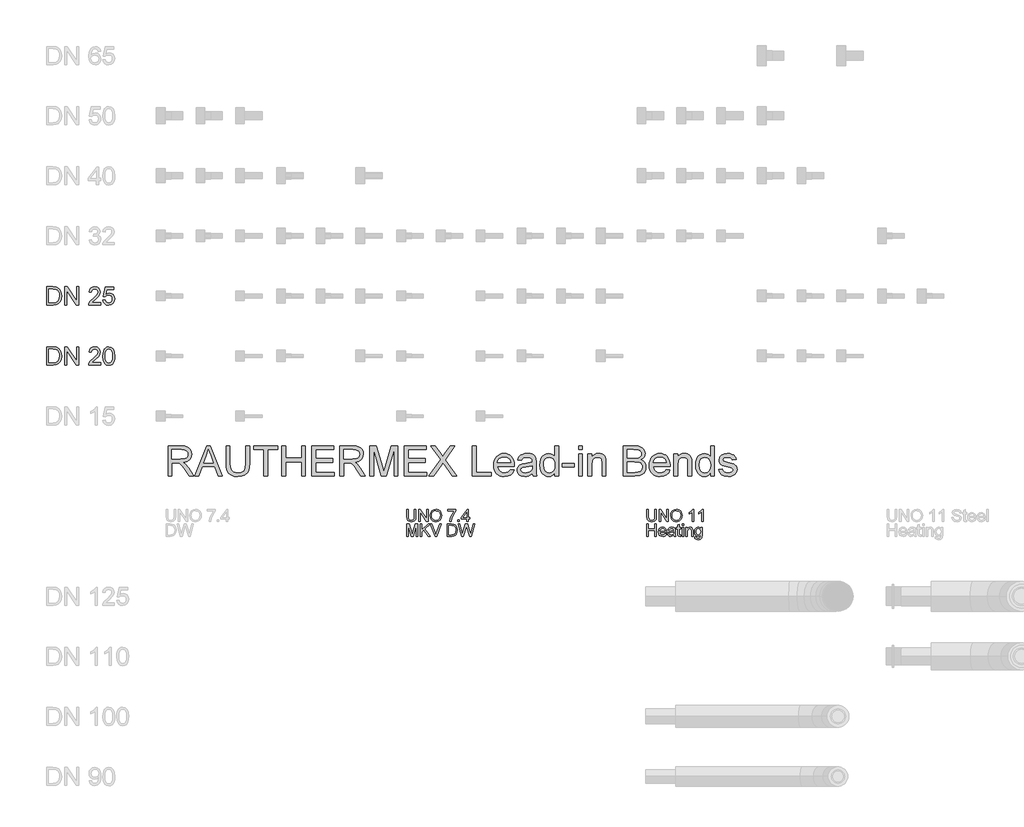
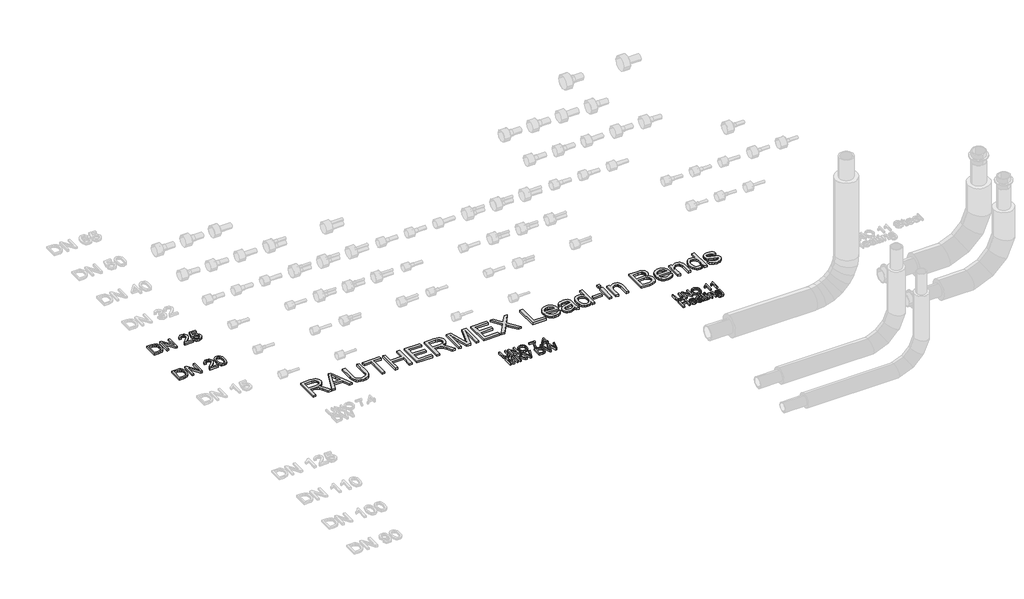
# One storey, part 10 of 44: 5 proxies.
"""IFC4 building model written with IfcOpenShell, lengths in millimetres."""

from ifc_helpers import new_model, si_unit, origin, origin_with_axes, place, context, project, spatial, polyline, outline, extrude, element, save

model = new_model("IFC4")

# Units and contexts
model_context = context("Model", 3, world=origin())
ifc_project = project(units=[si_unit("LENGTHUNIT", "METRE", prefix="MILLI")], contexts=[model_context])

# Site, building, storey
site = spatial("IfcSite", under=ifc_project)
building = spatial("IfcBuilding", under=site)
storey = spatial("IfcBuildingStorey", under=building, Name="REHAU Starting view", Elevation=0.0)

# Proxies
placement = place(None, origin())
element("IfcBuildingElementProxy", 1, Name="100", ObjectType="100", at=placement, inside=storey, context=model_context, shape_type="SweptSolid", body=[
    extrude(outline(polyline([(3076.9118625, 6222.431128), (3089.4689012, 6222.431128), (3089.4689012, 6164.477451), (3086.0598614, 6140.4547567), (3073.7726028, 6125.9847316), (3063.5086951, 6121.8000739), (3050.4734097, 6120.405188), (3027.529836, 6125.2612303), (3019.8901532, 6131.2055902), (3014.8011189, 6139.3265853), (3010.9874089, 6164.477451), (3010.9874089, 6222.431128), (3023.5444477, 6222.431128), (3023.5444477, 6164.9189094), (3026.0215198, 6145.7767829), (3034.5318566, 6136.2976902), (3049.2961874, 6132.9622268), (3062.067824, 6134.6115644), (3070.5597667, 6139.5595772), (3075.3238385, 6149.1980855), (3076.9118625, 6164.9189094), (3076.9118625, 6222.431128)])), origin_with_axes(), (0.0, 0.0, 1.0), 20.0),
    extrude(outline(polyline([(3111.4437191, 6121.9748178), (3111.4437191, 6222.431128), (3124.8836746, 6222.431128), (3177.3681726, 6142.8459897), (3177.3681726, 6222.431128), (3189.9252114, 6222.431128), (3189.9252114, 6121.9748178), (3176.4852558, 6121.9748178), (3124.0007578, 6201.5844816), (3124.0007578, 6121.9748178), (3111.4437191, 6121.9748178)])), origin_with_axes(), (0.0, 0.0, 1.0), 20.0),
    extrude(outline(polyline([(3207.1911397, 6170.8785977), (3210.5388658, 6193.0925389), (3220.5820443, 6209.8986147), (3235.9165921, 6220.4752221), (3255.1384264, 6224.0007578), (3268.3147332, 6222.3452889), (3280.1298766, 6217.3788819), (3289.9400631, 6209.4510249), (3297.1014993, 6198.9112058), (3301.479295, 6186.2683279), (3302.9385603, 6172.0312947), (3301.402653, 6157.6041891), (3296.794931, 6144.7835015), (3289.369846, 6134.2252883), (3279.3818499, 6126.5856055), (3267.667874, 6121.9502924), (3255.06485, 6120.405188), (3241.6862081, 6122.1127736), (3229.8036197, 6127.2355304), (3220.0179586, 6135.3105402), (3212.9300988, 6145.8748848), (3207.1911397, 6170.8785977)]), holes=[polyline([(3219.7481785, 6170.7559704), (3222.2589731, 6155.0412778), (3229.7913569, 6143.0667189), (3241.1129253, 6135.4883498), (3254.9912736, 6132.9622268), (3269.071957, 6135.5128753), (3280.4119195, 6143.1648208), (3287.889121, 6155.5072617), (3290.3815215, 6172.1293965), (3286.1140904, 6192.8534156), (3273.6428907, 6206.575414), (3255.2120028, 6211.4437191), (3241.7046022, 6209.0984714), (3230.2205526, 6202.0627282), (3222.366272, 6189.5455433), (3219.7481785, 6170.7559704)])]), origin_with_axes(), (0.0, 0.0, 1.0), 20.0),
    extrude(outline(polyline([(3354.7363452, 6208.3044594), (3354.7363452, 6220.8614981), (3420.6607988, 6220.8614981), (3420.6607988, 6210.7079551), (3401.9601307, 6183.6931539), (3387.6495211, 6149.2716619), (3382.9896824, 6121.9748178), (3370.4326437, 6121.9748178), (3375.4235761, 6150.3017315), (3389.121049, 6182.3197278), (3408.10376, 6208.3044594), (3354.7363452, 6208.3044594)])), origin_with_axes(), (0.0, 0.0, 1.0), 20.0),
    extrude(outline(polyline([(3437.9267271, 6121.9748178), (3437.9267271, 6134.5318566), (3450.4837658, 6134.5318566), (3450.4837658, 6121.9748178), (3437.9267271, 6121.9748178)])), origin_with_axes(), (0.0, 0.0, 1.0), 20.0),
    extrude(outline(polyline([(3511.6993298, 6121.9748178), (3511.6993298, 6145.5192655), (3466.1800643, 6145.5192655), (3466.1800643, 6158.0763043), (3514.8385895, 6220.8614981), (3524.2563686, 6220.8614981), (3524.2563686, 6158.0763043), (3536.8134074, 6158.0763043), (3536.8134074, 6145.5192655), (3524.2563686, 6145.5192655), (3524.2563686, 6121.9748178), (3511.6993298, 6121.9748178)]), holes=[polyline([(3511.6993298, 6158.0763043), (3511.6993298, 6196.8755921), (3481.6311081, 6158.0763043), (3511.6993298, 6158.0763043)])]), origin_with_axes(), (0.0, 0.0, 1.0), 20.0),
    extrude(outline(polyline([(3010.9874089, 6000.0), (3010.9874089, 6100.4563101), (3032.5943448, 6100.4563101), (3053.1466856, 6029.6512888), (3057.2914894, 6014.8624326), (3061.7796497, 6030.8775621), (3081.988634, 6100.4563101), (3103.5955698, 6100.4563101), (3103.5955698, 6000.0), (3091.0385311, 6000.0), (3091.0385311, 6087.8992714), (3065.8018262, 6000.0), (3048.7811526, 6000.0), (3023.5444477, 6087.8992714), (3023.5444477, 6000.0), (3010.9874089, 6000.0)])), origin_with_axes(), (0.0, 0.0, 1.0), 20.0),
    extrude(outline(polyline([(3247.8543629, 6000.0), (3207.8778527, 6100.4563101), (3221.3178083, 6100.4563101), (3248.0750921, 6028.081659), (3253.4952201, 6011.7722238), (3258.8417718, 6028.081659), (3285.672632, 6100.4563101), (3299.1125875, 6100.4563101), (3260.8283346, 6000.0), (3247.8543629, 6000.0)])), origin_with_axes(), (0.0, 0.0, 1.0), 20.0),
    extrude(outline(polyline([(3125.5703877, 6000.0), (3125.5703877, 6100.4563101), (3138.1274265, 6100.4563101), (3138.1274265, 6051.2827501), (3189.6309058, 6100.4563101), (3207.1911397, 6100.4563101), (3163.9527425, 6059.1554248), (3208.7607695, 6000.0), (3193.4078276, 6000.0), (3155.0499982, 6050.6696135), (3138.1274265, 6034.5318566), (3138.1274265, 6000.0), (3125.5703877, 6000.0)])), origin_with_axes(), (0.0, 0.0, 1.0), 20.0),
    extrude(outline(polyline([(3350.0274557, 6000.0), (3350.0274557, 6100.4563101), (3384.6819396, 6100.4563101), (3402.6100555, 6099.0093076), (3417.3743863, 6091.823346), (3429.2692374, 6074.6555196), (3433.2178375, 6050.7677153), (3430.5445617, 6030.4974174), (3423.6774311, 6015.8679767), (3414.5049067, 6006.756766), (3402.4996909, 6001.7167826), (3386.3496713, 6000.0), (3350.0274557, 6000.0)]), holes=[polyline([(3362.5844944, 6012.5570388), (3384.804567, 6012.5570388), (3400.9668493, 6014.3719233), (3410.2865265, 6019.4977457), (3417.9262093, 6031.9689454), (3420.6607988, 6050.9639191), (3419.3210952, 6064.6491293), (3415.3019844, 6074.7536214), (3402.266699, 6085.8881831), (3384.4612104, 6087.8992714), (3362.5844944, 6087.8992714), (3362.5844944, 6012.5570388)])]), origin_with_axes(), (0.0, 0.0, 1.0), 20.0),
    extrude(outline(polyline([(3468.4609327, 6000.0), (3441.0659868, 6100.4563101), (3454.015433, 6100.4563101), (3469.9079352, 6034.4337547), (3474.8130284, 6014.0530922), (3480.0614782, 6032.07931), (3499.9761569, 6100.4563101), (3518.6400368, 6100.4563101), (3533.1100619, 6050.8903427), (3543.8767417, 6014.0530922), (3548.6346821, 6033.8451436), (3564.6743371, 6100.4563101), (3577.6237834, 6100.4563101), (3550.204312, 6000.0), (3536.7888819, 6000.0), (3512.7048739, 6077.5004737), (3509.3448851, 6088.3162043), (3505.5679632, 6075.2931817), (3483.6176709, 6000.0), (3468.4609327, 6000.0)])), origin_with_axes(), (0.0, 0.0, 1.0), 20.0),
])
element("IfcBuildingElementProxy", 2, Name="100", ObjectType="100", at=placement, inside=storey, context=model_context, shape_type="SweptSolid", body=[
    extrude(outline(polyline([(5076.9118625, 6222.431128), (5089.4689012, 6222.431128), (5089.4689012, 6164.477451), (5086.0598614, 6140.4547567), (5073.7726028, 6125.9847316), (5063.5086951, 6121.8000739), (5050.4734097, 6120.405188), (5027.529836, 6125.2612303), (5019.8901532, 6131.2055902), (5014.8011189, 6139.3265853), (5010.9874089, 6164.477451), (5010.9874089, 6222.431128), (5023.5444477, 6222.431128), (5023.5444477, 6164.9189094), (5026.0215198, 6145.7767829), (5034.5318566, 6136.2976902), (5049.2961874, 6132.9622268), (5062.067824, 6134.6115644), (5070.5597667, 6139.5595772), (5075.3238385, 6149.1980855), (5076.9118625, 6164.9189094), (5076.9118625, 6222.431128)])), origin_with_axes(), (0.0, 0.0, 1.0), 20.0),
    extrude(outline(polyline([(5111.4437191, 6121.9748178), (5111.4437191, 6222.431128), (5124.8836746, 6222.431128), (5177.3681726, 6142.8459897), (5177.3681726, 6222.431128), (5189.9252114, 6222.431128), (5189.9252114, 6121.9748178), (5176.4852558, 6121.9748178), (5124.0007578, 6201.5844816), (5124.0007578, 6121.9748178), (5111.4437191, 6121.9748178)])), origin_with_axes(), (0.0, 0.0, 1.0), 20.0),
    extrude(outline(polyline([(5207.1911397, 6170.8785977), (5210.5388658, 6193.0925389), (5220.5820443, 6209.8986147), (5235.9165921, 6220.4752221), (5255.1384264, 6224.0007578), (5268.3147332, 6222.3452889), (5280.1298766, 6217.3788819), (5289.9400631, 6209.4510249), (5297.1014993, 6198.9112058), (5301.479295, 6186.2683279), (5302.9385603, 6172.0312947), (5301.402653, 6157.6041891), (5296.794931, 6144.7835015), (5289.369846, 6134.2252883), (5279.3818499, 6126.5856055), (5267.667874, 6121.9502924), (5255.06485, 6120.405188), (5241.6862081, 6122.1127736), (5229.8036197, 6127.2355304), (5220.0179586, 6135.3105402), (5212.9300988, 6145.8748848), (5207.1911397, 6170.8785977)]), holes=[polyline([(5219.7481785, 6170.7559704), (5222.2589731, 6155.0412778), (5229.7913569, 6143.0667189), (5241.1129253, 6135.4883498), (5254.9912736, 6132.9622268), (5269.071957, 6135.5128753), (5280.4119195, 6143.1648208), (5287.889121, 6155.5072617), (5290.3815215, 6172.1293965), (5286.1140904, 6192.8534156), (5273.6428907, 6206.575414), (5255.2120028, 6211.4437191), (5241.7046022, 6209.0984714), (5230.2205526, 6202.0627282), (5222.366272, 6189.5455433), (5219.7481785, 6170.7559704)])]), origin_with_axes(), (0.0, 0.0, 1.0), 20.0),
    extrude(outline(polyline([(5401.8252406, 6121.9748178), (5389.2682018, 6121.9748178), (5389.2682018, 6200.2601064), (5377.3733507, 6191.7865578), (5364.1541243, 6185.4467247), (5364.1541243, 6197.3170505), (5382.5604868, 6209.0647488), (5393.7318367, 6222.431128), (5401.8252406, 6222.431128), (5401.8252406, 6121.9748178)])), origin_with_axes(), (0.0, 0.0, 1.0), 20.0),
    extrude(outline(polyline([(5478.7371031, 6121.9748178), (5466.1800643, 6121.9748178), (5466.1800643, 6200.2601064), (5454.2852131, 6191.7865578), (5441.0659868, 6185.4467247), (5441.0659868, 6197.3170505), (5459.4723492, 6209.0647488), (5470.6436992, 6222.431128), (5478.7371031, 6222.431128), (5478.7371031, 6121.9748178)])), origin_with_axes(), (0.0, 0.0, 1.0), 20.0),
    extrude(outline(polyline([(5010.9874089, 6000.0), (5010.9874089, 6100.4563101), (5023.5444477, 6100.4563101), (5023.5444477, 6059.6459342), (5076.9118625, 6059.6459342), (5076.9118625, 6100.4563101), (5089.4689012, 6100.4563101), (5089.4689012, 6000.0), (5076.9118625, 6000.0), (5076.9118625, 6047.0888954), (5023.5444477, 6047.0888954), (5023.5444477, 6000.0), (5010.9874089, 6000.0)])), origin_with_axes(), (0.0, 0.0, 1.0), 20.0),
    extrude(outline(polyline([(5161.5247213, 6021.9748178), (5173.8365055, 6020.405188), (5169.4004617, 6011.1284304), (5162.321799, 6004.1938547), (5152.7599328, 5999.8712413), (5140.8742787, 5998.4303702), (5126.1406048, 6000.9166393), (5114.803708, 6008.3754468), (5107.5748268, 6020.3224146), (5105.1651997, 6036.2731647), (5107.5993522, 6052.7604095), (5114.9018098, 6065.0905877), (5126.0854225, 6072.7793214), (5140.1630402, 6075.3422326), (5153.8022651, 6072.7854527), (5164.7007692, 6065.1151131), (5171.846877, 6052.8094604), (5174.2289129, 6036.3467411), (5174.1553365, 6032.9622268), (5117.7222385, 6032.9622268), (5119.8958079, 6023.5628418), (5124.9449883, 6016.6527916), (5132.2321175, 6012.4037546), (5141.1195333, 6010.9874089), (5153.4313175, 6013.6116338), (5161.5247213, 6021.9748178)]), holes=[polyline([(5117.7222385, 6045.5192655), (5161.6718741, 6045.5192655), (5156.6441535, 6056.8990819), (5149.3233018, 6061.3136659), (5140.1139892, 6062.7851938), (5124.6506827, 6058.088567), (5119.7854433, 6052.5979283), (5117.7222385, 6045.5192655)])]), origin_with_axes(), (0.0, 0.0, 1.0), 20.0),
    extrude(outline(polyline([(5233.8748471, 6009.4177791), (5221.697953, 6000.9074423), (5208.2457347, 5998.4303702), (5197.7519008, 5999.9202922), (5190.0110505, 6004.3900585), (5185.2377816, 6011.1774813), (5183.646692, 6019.6203731), (5186.0501877, 6029.5531869), (5192.3654953, 6036.7636741), (5201.157875, 6040.8839524), (5212.0226566, 6042.7724133), (5233.8012707, 6047.0888954), (5233.8748471, 6049.8847985), (5230.4167563, 6059.1554248), (5216.5353424, 6062.7851938), (5203.8311508, 6060.3694354), (5197.7733606, 6051.7977849), (5185.2163218, 6053.3674148), (5190.6487126, 6065.6301479), (5201.5870706, 6072.8161096), (5218.1540231, 6075.3422326), (5233.372075, 6073.1104152), (5241.968251, 6067.5063461), (5245.8187492, 6058.9837466), (5246.4318858, 6047.9963376), (5246.4318858, 6032.3736156), (5247.069548, 6010.5582133), (5249.5711455, 6000.0), (5237.0141068, 6000.0), (5233.8748471, 6009.4177791)]), holes=[polyline([(5233.8748471, 6034.5318566), (5213.6168119, 6030.6813584), (5202.8133439, 6028.6457447), (5197.9205134, 6025.3348067), (5196.2037308, 6020.5032899), (5199.9438644, 6013.7097357), (5210.9190106, 6010.9874089), (5223.6232021, 6013.9917785), (5231.8147079, 6021.2635793), (5233.8012707, 6030.975664), (5233.8748471, 6034.5318566)])]), origin_with_axes(), (0.0, 0.0, 1.0), 20.0),
    extrude(outline(polyline([(5290.3815215, 6010.4723741), (5291.9511514, 5999.632118), (5282.5578978, 5998.4303702), (5272.0364727, 6000.5150348), (5266.7880229, 6005.9842138), (5265.267444, 6020.2335097), (5265.267444, 6061.215564), (5255.8496649, 6061.215564), (5255.8496649, 6073.7726028), (5265.267444, 6073.7726028), (5265.267444, 6091.7007187), (5277.8244828, 6099.082884), (5277.8244828, 6073.7726028), (5290.3815215, 6073.7726028), (5290.3815215, 6061.215564), (5277.8244828, 6061.215564), (5277.8244828, 6020.6013917), (5278.4866703, 6014.1266686), (5280.6326487, 6011.8335375), (5284.9123425, 6010.9874089), (5290.3815215, 6010.4723741)])), origin_with_axes(), (0.0, 0.0, 1.0), 20.0),
    extrude(outline(polyline([(5302.9385603, 6087.8992714), (5302.9385603, 6100.4563101), (5315.4955991, 6100.4563101), (5315.4955991, 6087.8992714), (5302.9385603, 6087.8992714)])), origin_with_axes(), (0.0, 0.0, 1.0), 20.0),
    extrude(outline(polyline([(5302.9385603, 6000.0), (5302.9385603, 6073.7726028), (5315.4955991, 6073.7726028), (5315.4955991, 6000.0), (5302.9385603, 6000.0)])), origin_with_axes(), (0.0, 0.0, 1.0), 20.0),
    extrude(outline(polyline([(5334.3311572, 6000.0), (5334.3311572, 6073.7726028), (5346.888196, 6073.7726028), (5346.888196, 6063.4719069), (5356.4899161, 6072.3746512), (5369.5987778, 6075.3422326), (5381.4568408, 6072.9509996), (5389.5502447, 6066.6724803), (5393.3149038, 6057.4386422), (5393.9770914, 6045.2985363), (5393.9770914, 6000.0), (5381.4200526, 6000.0), (5381.4200526, 6043.6062792), (5379.9730501, 6054.7163154), (5374.8594904, 6060.5901646), (5366.2387889, 6062.7851938), (5352.6148924, 6057.8555751), (5348.3198701, 6050.712533), (5346.888196, 6039.1426443), (5346.888196, 6000.0), (5334.3311572, 6000.0)])), origin_with_axes(), (0.0, 0.0, 1.0), 20.0),
    extrude(outline(polyline([(5408.10376, 5993.7214806), (5420.6607988, 5992.1518508), (5424.7320262, 5985.5299749), (5436.9211829, 5982.7340717), (5449.7725273, 5985.8978569), (5455.9038939, 5994.7760757), (5456.7622852, 6009.4177791), (5447.9208546, 6002.3544448), (5437.1419121, 6000.0), (5424.1955316, 6002.7407209), (5414.5416949, 6010.9628835), (5408.5360213, 6023.0171502), (5406.5341301, 6037.2541834), (5410.127111, 6056.7151409), (5420.5259087, 6070.4861903), (5436.5287755, 6075.3422326), (5447.7307822, 6072.5953804), (5456.7622852, 6064.3548237), (5456.7622852, 6073.7726028), (5469.319324, 6073.7726028), (5469.319324, 6010.0799667), (5465.8857587, 5985.6893904), (5455.0087144, 5974.3463622), (5436.6759283, 5970.1770329), (5424.9926092, 5971.6454952), (5415.7924937, 5976.0508821), (5409.8910533, 5983.4054563), (5408.10376, 5993.7214806)]), holes=[polyline([(5419.0911689, 6038.1125747), (5420.4308725, 6026.5948026), (5424.4499833, 6018.6761426), (5430.4924451, 6014.0868147), (5437.9022016, 6012.5570388), (5445.2567758, 6014.0776177), (5451.3298944, 6018.6393544), (5455.4041875, 6026.4568468), (5456.7622852, 6037.7446927), (5455.3643336, 6048.6309341), (5451.1704789, 6056.4698863), (5445.0084555, 6061.2063669), (5437.7059979, 6062.7851938), (5430.5353646, 6061.2308924), (5424.5235597, 6056.5679881), (5420.4492666, 6048.8455319), (5419.0911689, 6038.1125747)])]), origin_with_axes(), (0.0, 0.0, 1.0), 20.0),
])
element("IfcBuildingElementProxy", 3, Name="150", ObjectType="150", at=placement, inside=storey, context=model_context, shape_type="SweptSolid", body=[
    extrude(outline(polyline([(16.4811134, 7425.0), (16.4811134, 7575.6844652), (68.4628393, 7575.6844652), (95.3550131, 7573.5139615), (117.5015093, 7562.735019), (127.9217668, 7551.2571007), (135.343786, 7536.9832793), (139.7859611, 7520.1894663), (141.2666861, 7501.151573), (137.2567724, 7470.7461261), (126.9560765, 7448.8019651), (113.1972899, 7435.135149), (95.1894663, 7427.575174), (70.9644369, 7425.0), (16.4811134, 7425.0)]), holes=[polyline([(35.3166715, 7443.8355582), (68.6467803, 7443.8355582), (92.8902038, 7446.5578849), (106.8697196, 7454.2466186), (118.3292437, 7472.9534181), (122.431128, 7501.4458786), (120.4215726, 7521.9736939), (114.3929064, 7537.1304321), (105.4855636, 7547.5414926), (94.8399784, 7553.8322747), (68.1317455, 7556.8489071), (35.3166715, 7556.8489071), (35.3166715, 7443.8355582)])]), origin_with_axes(), (0.0, 0.0, 1.0), 20.0),
    extrude(outline(polyline([(167.1655786, 7425.0), (167.1655786, 7575.6844652), (187.3255119, 7575.6844652), (266.0522589, 7456.3067578), (266.0522589, 7575.6844652), (284.8878171, 7575.6844652), (284.8878171, 7425.0), (264.7278837, 7425.0), (186.0011368, 7544.4144956), (186.0011368, 7425.0), (167.1655786, 7425.0)])), origin_with_axes(), (0.0, 0.0, 1.0), 20.0),
    extrude(outline(polyline([(466.1800643, 7443.8355582), (466.1800643, 7425.0), (367.293384, 7425.0), (369.316735, 7437.9862344), (380.757865, 7457.9806209), (404.3391009, 7479.8144173), (436.8598693, 7511.1947515), (442.9575133, 7522.0104821), (444.9900614, 7532.5319072), (443.0724765, 7541.9634818), (437.3197218, 7549.8039669), (428.4767583, 7555.087672), (417.2885471, 7556.8489071), (405.5393159, 7555.1290587), (396.4112439, 7549.9695138), (390.5205335, 7541.7749423), (388.4833869, 7530.9500146), (369.6478288, 7533.3044594), (374.214164, 7551.5238152), (384.0871971, 7564.8319464), (398.7518931, 7572.9713355), (417.6932173, 7575.6844652), (436.7724973, 7572.6678329), (451.4096022, 7563.6179358), (460.7216152, 7550.0982725), (463.8256195, 7533.6723414), (460.4778934, 7515.8116705), (449.349463, 7497.3439944), (422.3653187, 7471.5370724), (400.6970691, 7453.4188841), (392.1989951, 7443.8355582), (466.1800643, 7443.8355582)])), origin_with_axes(), (0.0, 0.0, 1.0), 20.0),
    extrude(outline(polyline([(485.0156224, 7499.128222), (486.3997784, 7523.2474853), (490.5522465, 7542.4831152), (497.4316398, 7557.1294171), (506.9965717, 7567.4806967), (519.31602, 7573.6335231), (534.4589626, 7575.6844652), (556.4583059, 7570.8284229), (571.6518323, 7556.830513), (580.4810002, 7534.5368641), (583.9023027, 7499.128222), (582.5319423, 7475.1469145), (578.420861, 7455.9572699), (571.5828544, 7441.2971724), (562.0317181, 7430.904506), (549.6846787, 7424.7102929), (534.4589626, 7422.6455552), (514.8876404, 7426.2324047), (500.0252078, 7436.992953), (488.7680188, 7462.4779783), (485.0156224, 7499.128222)]), holes=[polyline([(503.8511806, 7499.1650102), (506.0584726, 7469.536714), (512.6803485, 7452.3888145), (522.5395859, 7444.2080387), (534.4589626, 7441.4811134), (546.3783392, 7444.2172357), (556.2375767, 7452.4256027), (562.8594526, 7469.5826993), (565.0667446, 7499.1650102), (562.933029, 7528.1265203), (556.5318823, 7545.407777), (546.6910389, 7553.9886246), (534.2382334, 7556.8489071), (522.4476155, 7554.3289154), (512.9746541, 7546.7689404), (506.132049, 7528.4116288), (503.8511806, 7499.1650102)])]), origin_with_axes(), (0.0, 0.0, 1.0), 20.0),
])
element("IfcBuildingElementProxy", 4, Name="150", ObjectType="150", at=placement, inside=storey, context=model_context, shape_type="SweptSolid", body=[
    extrude(outline(polyline([(16.4811134, 7925.0), (16.4811134, 8075.6844652), (68.4628393, 8075.6844652), (95.3550131, 8073.5139615), (117.5015093, 8062.735019), (127.9217668, 8051.2571007), (135.343786, 8036.9832793), (139.7859611, 8020.1894663), (141.2666861, 8001.151573), (137.2567724, 7970.7461261), (126.9560765, 7948.8019651), (113.1972899, 7935.135149), (95.1894663, 7927.575174), (70.9644369, 7925.0), (16.4811134, 7925.0)]), holes=[polyline([(35.3166715, 7943.8355582), (68.6467803, 7943.8355582), (92.8902038, 7946.5578849), (106.8697196, 7954.2466186), (118.3292437, 7972.9534181), (122.431128, 8001.4458786), (120.4215726, 8021.9736939), (114.3929064, 8037.1304321), (105.4855636, 8047.5414926), (94.8399784, 8053.8322747), (68.1317455, 8056.8489071), (35.3166715, 8056.8489071), (35.3166715, 7943.8355582)])]), origin_with_axes(), (0.0, 0.0, 1.0), 20.0),
    extrude(outline(polyline([(167.1655786, 7925.0), (167.1655786, 8075.6844652), (187.3255119, 8075.6844652), (266.0522589, 7956.3067578), (266.0522589, 8075.6844652), (284.8878171, 8075.6844652), (284.8878171, 7925.0), (264.7278837, 7925.0), (186.0011368, 8044.4144956), (186.0011368, 7925.0), (167.1655786, 7925.0)])), origin_with_axes(), (0.0, 0.0, 1.0), 20.0),
    extrude(outline(polyline([(466.1800643, 7943.8355582), (466.1800643, 7925.0), (367.293384, 7925.0), (369.316735, 7937.9862344), (380.757865, 7957.9806209), (404.3391009, 7979.8144173), (436.8598693, 8011.1947515), (442.9575133, 8022.0104821), (444.9900614, 8032.5319072), (443.0724765, 8041.9634818), (437.3197218, 8049.8039669), (428.4767583, 8055.087672), (417.2885471, 8056.8489071), (405.5393159, 8055.1290587), (396.4112439, 8049.9695138), (390.5205335, 8041.7749423), (388.4833869, 8030.9500146), (369.6478288, 8033.3044594), (374.214164, 8051.5238152), (384.0871971, 8064.8319464), (398.7518931, 8072.9713355), (417.6932173, 8075.6844652), (436.7724973, 8072.6678329), (451.4096022, 8063.6179358), (460.7216152, 8050.0982725), (463.8256195, 8033.6723414), (460.4778934, 8015.8116705), (449.349463, 7997.3439944), (422.3653187, 7971.5370724), (400.6970691, 7953.4188841), (392.1989951, 7943.8355582), (466.1800643, 7943.8355582)])), origin_with_axes(), (0.0, 0.0, 1.0), 20.0),
    extrude(outline(polyline([(485.0156224, 7965.0255611), (503.8511806, 7967.3800058), (507.3092713, 7956.072233), (513.3425361, 7947.9742306), (521.9233836, 7943.1043927), (533.0242228, 7941.4811134), (546.525492, 7943.7389891), (556.6422469, 7950.5126164), (562.9606202, 7961.0202459), (565.0667446, 7974.4801284), (563.0939774, 7987.1536631), (557.1756758, 7996.8473537), (547.2658545, 8003.00018), (533.3185284, 8005.0511222), (516.7822327, 8001.7769724), (506.2056254, 7993.2788983), (487.3700672, 7995.6333431), (503.8511806, 8073.3300205), (576.8389684, 8073.3300205), (576.8389684, 8054.4944623), (519.0814952, 8054.4944623), (511.0248795, 8012.9973732), (524.4801635, 8021.1643535), (538.5792409, 8023.8866803), (556.1777959, 8020.511363), (570.7873096, 8010.3854111), (580.6235545, 7994.9527614), (583.9023027, 7975.6573507), (580.9500497, 7956.8217926), (572.0932907, 7940.7085612), (555.1339307, 7927.1613067), (532.9506464, 7922.6455552), (514.4507806, 7925.5472245), (499.7125081, 7934.2522322), (489.6095489, 7947.7489029), (485.0156224, 7965.0255611)])), origin_with_axes(), (0.0, 0.0, 1.0), 20.0),
])
element("IfcBuildingElementProxy", 5, Name="250", ObjectType="250", at=placement, inside=storey, context=model_context, shape_type="SweptSolid", body=[
    extrude(outline(polyline([(1027.4685223, 6500.0), (1027.4685223, 6751.1407754), (1135.6871426, 6751.1407754), (1164.7728128, 6749.4469854), (1185.9336917, 6744.3656153), (1201.4000639, 6734.9846244), (1213.402214, 6720.3919719), (1221.1047433, 6702.2967763), (1223.6722531, 6682.4081559), (1219.4186175, 6657.6680918), (1206.6577108, 6637.1586705), (1185.0063225, 6622.121494), (1154.0812423, 6613.7981638), (1171.9235191, 6600.370471), (1197.3686904, 6568.0581691), (1239.2459242, 6500.0), (1202.764293, 6500.0), (1170.0841091, 6552.0553023), (1146.4783477, 6586.5135825), (1129.8930011, 6602.7923608), (1114.9631235, 6608.7704432), (1096.7529647, 6609.8740892), (1058.8611192, 6609.8740892), (1058.8611192, 6500.0), (1027.4685223, 6500.0)]), holes=[polyline([(1058.8611192, 6641.2666861), (1129.1265803, 6641.2666861), (1164.964418, 6645.7119269), (1176.7519703, 6651.4907399), (1185.3205551, 6659.9366974), (1190.5398809, 6670.153087), (1192.2796561, 6681.2431963), (1188.961054, 6696.5562843), (1179.0052475, 6708.8956596), (1161.8757421, 6717.0350487), (1137.0360432, 6719.7481785), (1058.8611192, 6719.7481785), (1058.8611192, 6641.2666861)])]), origin_with_axes(), (0.0, 0.0, 1.0), 20.0),
    extrude(outline(polyline([(1249.3626791, 6500.0), (1349.6105227, 6751.1407754), (1376.3432811, 6751.1407754), (1476.5911248, 6500.0), (1443.4204315, 6500.0), (1414.6643222, 6578.4814923), (1311.2281679, 6578.4814923), (1282.5333723, 6500.0), (1249.3626791, 6500.0)]), holes=[polyline([(1322.7551371, 6609.8740892), (1403.1986667, 6609.8740892), (1380.573924, 6671.6169507), (1362.9769019, 6719.7481785), (1347.3419171, 6677.0125533), (1322.7551371, 6609.8740892)])]), origin_with_axes(), (0.0, 0.0, 1.0), 20.0),
    extrude(outline(polyline([(1674.9408338, 6751.1407754), (1706.3334307, 6751.1407754), (1706.3334307, 6606.2565829), (1704.2027809, 6572.3271331), (1697.8108312, 6546.1998472), (1685.8699948, 6526.0429796), (1667.0926846, 6510.0247844), (1641.4329154, 6499.5631401), (1608.844702, 6496.0759254), (1576.96926, 6499.1109518), (1551.4857676, 6508.2160312), (1532.3865607, 6523.076931), (1519.663975, 6543.3794186), (1512.5132687, 6570.6103504), (1510.1297, 6606.2565829), (1510.1297, 6751.1407754), (1541.5222969, 6751.1407754), (1541.5222969, 6607.3602289), (1543.070467, 6579.1482784), (1547.7149772, 6559.5049127), (1556.1302778, 6545.9009431), (1568.9908192, 6535.8071809), (1585.7601068, 6529.5531869), (1605.9016461, 6527.4685223), (1637.8307376, 6531.5918663), (1659.0605944, 6543.9618984), (1666.0081991, 6554.1093101), (1670.970774, 6568.0581691), (1674.9408338, 6607.3602289), (1674.9408338, 6751.1407754)])), origin_with_axes(), (0.0, 0.0, 1.0), 20.0),
    extrude(outline(polyline([(1824.0556692, 6500.0), (1824.0556692, 6719.7481785), (1741.6501023, 6719.7481785), (1741.6501023, 6751.1407754), (1937.853833, 6751.1407754), (1937.853833, 6719.7481785), (1855.4482661, 6719.7481785), (1855.4482661, 6500.0), (1824.0556692, 6500.0)])), origin_with_axes(), (0.0, 0.0, 1.0), 20.0),
    extrude(outline(polyline([(1973.1705046, 6500.0), (1973.1705046, 6751.1407754), (2004.5631015, 6751.1407754), (2004.5631015, 6649.1148354), (2137.9816384, 6649.1148354), (2137.9816384, 6751.1407754), (2169.3742353, 6751.1407754), (2169.3742353, 6500.0), (2137.9816384, 6500.0), (2137.9816384, 6617.7222385), (2004.5631015, 6617.7222385), (2004.5631015, 6500.0), (1973.1705046, 6500.0)])), origin_with_axes(), (0.0, 0.0, 1.0), 20.0),
    extrude(outline(polyline([(2224.3112799, 6500.0), (2224.3112799, 6751.1407754), (2404.8187122, 6751.1407754), (2404.8187122, 6719.7481785), (2255.7038769, 6719.7481785), (2255.7038769, 6645.1907608), (2396.970563, 6645.1907608), (2396.970563, 6613.7981638), (2255.7038769, 6613.7981638), (2255.7038769, 6531.3925969), (2408.7427869, 6531.3925969), (2408.7427869, 6500.0), (2224.3112799, 6500.0)])), origin_with_axes(), (0.0, 0.0, 1.0), 20.0),
    extrude(outline(polyline([(2455.8316822, 6500.0), (2455.8316822, 6751.1407754), (2564.0503025, 6751.1407754), (2593.1359727, 6749.4469854), (2614.2968517, 6744.3656153), (2629.7632239, 6734.9846244), (2641.765374, 6720.3919719), (2649.4679032, 6702.2967763), (2652.035413, 6682.4081559), (2647.7817774, 6657.6680918), (2635.0208707, 6637.1586705), (2613.3694825, 6622.121494), (2582.4444023, 6613.7981638), (2600.286679, 6600.370471), (2625.7318504, 6568.0581691), (2667.6090841, 6500.0), (2631.1274529, 6500.0), (2598.447269, 6552.0553023), (2574.8415077, 6586.5135825), (2558.2561611, 6602.7923608), (2543.3262834, 6608.7704432), (2525.1161247, 6609.8740892), (2487.2242792, 6609.8740892), (2487.2242792, 6500.0), (2455.8316822, 6500.0)]), holes=[polyline([(2487.2242792, 6641.2666861), (2557.4897402, 6641.2666861), (2593.3275779, 6645.7119269), (2605.1151302, 6651.4907399), (2613.683715, 6659.9366974), (2618.9030408, 6670.153087), (2620.6428161, 6681.2431963), (2617.3242139, 6696.5562843), (2607.3684074, 6708.8956596), (2590.238902, 6717.0350487), (2565.3992031, 6719.7481785), (2487.2242792, 6719.7481785), (2487.2242792, 6641.2666861)])]), origin_with_axes(), (0.0, 0.0, 1.0), 20.0),
    extrude(outline(polyline([(2706.9724576, 6500.0), (2706.9724576, 6751.1407754), (2760.9897972, 6751.1407754), (2812.3706492, 6574.128222), (2822.7326588, 6537.1560815), (2833.9530596, 6577.1939053), (2884.4755203, 6751.1407754), (2938.4928599, 6751.1407754), (2938.4928599, 6500.0), (2907.100263, 6500.0), (2907.100263, 6719.7481785), (2844.0085008, 6500.0), (2801.4568167, 6500.0), (2738.3650545, 6719.7481785), (2738.3650545, 6500.0), (2706.9724576, 6500.0)])), origin_with_axes(), (0.0, 0.0, 1.0), 20.0),
    extrude(outline(polyline([(2993.4299045, 6500.0), (2993.4299045, 6751.1407754), (3173.9373368, 6751.1407754), (3173.9373368, 6719.7481785), (3024.8225015, 6719.7481785), (3024.8225015, 6645.1907608), (3166.0891876, 6645.1907608), (3166.0891876, 6613.7981638), (3024.8225015, 6613.7981638), (3024.8225015, 6531.3925969), (3177.8614114, 6531.3925969), (3177.8614114, 6500.0), (2993.4299045, 6500.0)])), origin_with_axes(), (0.0, 0.0, 1.0), 20.0),
    extrude(outline(polyline([(3197.4817845, 6500.0), (3294.2960629, 6636.8521022), (3213.178083, 6751.1407754), (3250.8246738, 6751.1407754), (3296.5033549, 6686.8227399), (3311.893085, 6661.7454505), (3329.9193028, 6687.2519355), (3375.1074745, 6751.1407754), (3413.3058884, 6751.1407754), (3332.1879084, 6636.4842202), (3429.0021868, 6500.0), (3391.355596, 6500.0), (3326.8536195, 6590.9894801), (3313.4259267, 6609.8740892), (3298.6493332, 6589.1500702), (3235.6801984, 6500.0), (3197.4817845, 6500.0)])), origin_with_axes(), (0.0, 0.0, 1.0), 20.0),
    extrude(outline(polyline([(3558.4966491, 6500.0), (3558.4966491, 6751.1407754), (3589.889246, 6751.1407754), (3589.889246, 6531.3925969), (3715.4596337, 6531.3925969), (3715.4596337, 6500.0), (3558.4966491, 6500.0)])), origin_with_axes(), (0.0, 0.0, 1.0), 20.0),
    extrude(outline(polyline([(3875.978811, 6554.9370446), (3906.7582712, 6551.01297), (3895.6681619, 6527.8210759), (3877.9715051, 6510.4846369), (3854.0668396, 6499.6781033), (3824.3527043, 6496.0759254), (3804.8741191, 6497.6298436), (3787.5185195, 6502.2915983), (3772.2859057, 6510.0611894), (3759.1762775, 6520.9386169), (3748.6341591, 6534.6211446), (3741.1040745, 6550.8060364), (3736.5860237, 6569.4932921), (3735.0800068, 6590.6829118), (3736.6013521, 6612.591051), (3741.1653881, 6631.9010237), (3748.7721148, 6648.6128297), (3759.4215322, 6662.7264692), (3772.4966714, 6673.9392058), (3787.3805638, 6681.9483034), (3804.0732093, 6686.753762), (3822.574608, 6688.3555815), (3840.4801145, 6686.7575941), (3856.6726704, 6681.9636319), (3871.1522758, 6673.9736948), (3883.9189307, 6662.7877829), (3894.3403378, 6648.7048002), (3901.7842001, 6632.023651), (3906.2505174, 6612.7443352), (3907.7392899, 6590.8668528), (3907.5553489, 6582.4055669), (3766.4726037, 6582.4055669), (3771.9065274, 6558.9071045), (3784.5294783, 6541.6319791), (3802.7473013, 6531.0093865), (3824.965841, 6527.4685223), (3841.6738149, 6529.1086629), (3855.7453012, 6534.0290846), (3867.1802999, 6542.5363557), (3875.978811, 6554.9370446)]), holes=[polyline([(3766.4726037, 6613.7981638), (3876.346693, 6613.7981638), (3872.1007216, 6630.3835105), (3863.7773915, 6642.2477048), (3845.4752622, 6653.2841647), (3822.4519807, 6656.9629846), (3801.2911017, 6654.0275929), (3783.7937143, 6645.2214176), (3771.6306159, 6631.4948207), (3766.4726037, 6613.7981638)])]), origin_with_axes(), (0.0, 0.0, 1.0), 20.0),
    extrude(outline(polyline([(4056.8541253, 6523.5444477), (4041.8552697, 6510.6839063), (4026.4118902, 6502.2686056), (4010.1714329, 6497.6240954), (3992.7813444, 6496.0759254), (3966.5467596, 6499.8007306), (3947.1946339, 6510.9751462), (3935.2614616, 6527.9437032), (3931.2837376, 6549.0509327), (3932.7859224, 6562.0647583), (3937.2924768, 6573.8829674), (3953.0807458, 6591.9091851), (3975.061695, 6602.209881), (4002.223649, 6606.9310333), (4056.6701843, 6617.7222385), (4056.8541253, 6624.7119964), (4054.6928185, 6638.722169), (4048.2088984, 6647.8885621), (4033.7082164, 6654.694379), (4013.5053635, 6656.9629846), (3994.8046954, 6655.4531356), (3981.7448846, 6650.9235885), (3972.8390746, 6642.5466089), (3966.6004091, 6629.4944623), (3935.2078122, 6633.4185369), (3940.6570642, 6650.5863634), (3948.7887892, 6664.0753698), (3960.3617436, 6674.3913941), (3976.1346841, 6682.0402739), (3995.4254963, 6686.7767546), (4017.5520654, 6688.3555815), (4038.774258, 6686.9606956), (4055.5971951, 6682.7760379), (4068.2814597, 6676.483723), (4077.087635, 6668.7658653), (4086.7138805, 6647.4593664), (4088.2467222, 6619.9908441), (4088.2467222, 6580.9340389), (4089.8408775, 6526.3955332), (4096.0948714, 6500.0), (4064.7022745, 6500.0), (4056.8541253, 6523.5444477)]), holes=[polyline([(4056.8541253, 6586.3296415), (4006.2090373, 6576.703396), (3979.2003674, 6571.6143617), (3966.9682911, 6563.3370168), (3962.6763345, 6551.2582247), (3965.013918, 6541.923219), (3972.0266685, 6534.2743392), (3983.5613019, 6529.1699765), (3999.464534, 6527.4685223), (4016.3257921, 6529.3462533), (4031.2250129, 6534.9794464), (4043.3038051, 6543.2797839), (4051.7037773, 6553.1589483), (4055.4285825, 6563.3370168), (4056.6701843, 6577.43916), (4056.8541253, 6586.3296415)])]), origin_with_axes(), (0.0, 0.0, 1.0), 20.0),
    extrude(outline(polyline([(4245.2097068, 6500.0), (4245.2097068, 6529.6145006), (4235.8172196, 6514.9413739), (4224.4397025, 6504.4605692), (4211.0771554, 6498.1720863), (4195.7295784, 6496.0759254), (4175.434755, 6499.1109518), (4156.8567143, 6508.2160312), (4141.129759, 6522.7550342), (4129.388192, 6542.0918316), (4122.0765373, 6565.4446741), (4119.6393191, 6592.0318125), (4121.8849321, 6618.2893899), (4128.6217711, 6642.0024501), (4139.842172, 6661.8220926), (4155.5384705, 6676.3994167), (4174.5227143, 6685.3665403), (4195.6069511, 6688.3555815), (4210.9660244, 6686.2172674), (4224.5470014, 6679.8023251), (4236.0586422, 6669.969146), (4245.2097068, 6657.5761213), (4245.2097068, 6751.1407754), (4276.6023037, 6751.1407754), (4276.6023037, 6500.0), (4245.2097068, 6500.0)]), holes=[polyline([(4151.031916, 6592.1544398), (4154.5727802, 6563.7585483), (4165.1953728, 6543.5633596), (4180.6310882, 6531.4922316), (4198.6113207, 6527.4685223), (4216.583889, 6531.3082906), (4231.6287298, 6542.8275956), (4241.8144625, 6562.2410351), (4245.2097068, 6589.7632068), (4241.7531489, 6619.8528883), (4231.3834751, 6640.7148632), (4215.955424, 6652.9009542), (4197.3237337, 6656.9629846), (4179.1595602, 6653.0619026), (4164.2756678, 6641.3586566), (4154.342854, 6621.2554385), (4151.031916, 6592.1544398)])]), origin_with_axes(), (0.0, 0.0, 1.0), 20.0),
    extrude(outline(polyline([(4307.9949006, 6574.5574177), (4307.9949006, 6605.9500146), (4406.096766, 6605.9500146), (4406.096766, 6574.5574177), (4307.9949006, 6574.5574177)])), origin_with_axes(), (0.0, 0.0, 1.0), 20.0),
    extrude(outline(polyline([(4441.4134375, 6719.7481785), (4441.4134375, 6751.1407754), (4472.8060345, 6751.1407754), (4472.8060345, 6719.7481785), (4441.4134375, 6719.7481785)])), origin_with_axes(), (0.0, 0.0, 1.0), 20.0),
    extrude(outline(polyline([(4441.4134375, 6500.0), (4441.4134375, 6684.4315069), (4472.8060345, 6684.4315069), (4472.8060345, 6500.0), (4441.4134375, 6500.0)])), origin_with_axes(), (0.0, 0.0, 1.0), 20.0),
    extrude(outline(polyline([(4519.8949299, 6500.0), (4519.8949299, 6684.4315069), (4551.2875268, 6684.4315069), (4551.2875268, 6658.6797673), (4562.1936951, 6671.662936), (4575.291827, 6680.936628), (4590.5819224, 6686.5008431), (4608.0639814, 6688.3555815), (4623.5380178, 6686.8610609), (4637.7091388, 6682.3774991), (4649.5273479, 6675.4643833), (4657.9426485, 6666.6812006), (4667.3542963, 6643.5966055), (4669.0097652, 6613.2463408), (4669.0097652, 6500.0), (4637.6171683, 6500.0), (4637.6171683, 6609.0156979), (4633.999662, 6636.7907885), (4628.994934, 6645.0604692), (4621.2157627, 6651.4754115), (4599.6640091, 6656.9629846), (4581.2775736, 6653.8819729), (4565.6042678, 6644.6389378), (4554.866712, 6626.7813326), (4551.2875268, 6597.8566107), (4551.2875268, 6500.0), (4519.8949299, 6500.0)])), origin_with_axes(), (0.0, 0.0, 1.0), 20.0),
    extrude(outline(polyline([(4814.200526, 6500.0), (4814.200526, 6751.1407754), (4910.0337857, 6751.1407754), (4936.3909978, 6749.2937012), (4956.969397, 6743.7524786), (4972.7423375, 6734.379152), (4984.6831739, 6721.0357654), (4992.2017622, 6705.339467), (4994.7079583, 6688.9074045), (4992.600301, 6673.7859217), (4986.2773292, 6659.5688154), (4975.6930577, 6647.1298054), (4960.8015011, 6637.3426115), (4978.5901284, 6628.0535912), (4991.7342455, 6613.9207912), (4999.850642, 6595.879245), (5002.5561075, 6574.863986), (5000.7090333, 6557.3512702), (4995.1678108, 6541.110813), (4986.8981301, 6527.2999097), (4976.8656815, 6517.0758559), (4949.5504434, 6504.3226134), (4909.2980217, 6500.0), (4814.200526, 6500.0)]), holes=[polyline([(4845.5931229, 6649.1148354), (4902.9214005, 6649.1148354), (4936.3986621, 6651.8126367), (4948.1172364, 6656.4648111), (4956.5402013, 6663.4315764), (4961.6215714, 6672.6056336), (4963.3153614, 6683.8796839), (4961.7365345, 6694.8241733), (4957.0000538, 6704.3584483), (4949.3205171, 6711.8003945), (4938.9125224, 6716.4678973), (4898.5681302, 6719.7481785), (4845.5931229, 6719.7481785), (4845.5931229, 6649.1148354)]), polyline([(4845.5931229, 6531.3925969), (4909.9724721, 6531.3925969), (4933.2716651, 6532.6188702), (4952.9840087, 6539.455344), (4966.0438195, 6553.404203), (4971.1635106, 6574.5574177), (4969.6613258, 6587.6785422), (4965.1547713, 6598.9602567), (4957.2836295, 6607.7817604), (4945.6876824, 6613.5222523), (4906.9067888, 6617.7222385), (4845.5931229, 6617.7222385), (4845.5931229, 6531.3925969)])]), origin_with_axes(), (0.0, 0.0, 1.0), 20.0),
    extrude(outline(polyline([(5170.923434, 6554.9370446), (5201.7028942, 6551.01297), (5190.6127849, 6527.8210759), (5172.9161281, 6510.4846369), (5149.0114626, 6499.6781033), (5119.2973273, 6496.0759254), (5099.8187421, 6497.6298436), (5082.4631426, 6502.2915983), (5067.2305287, 6510.0611894), (5054.1209005, 6520.9386169), (5043.5787821, 6534.6211446), (5036.0486975, 6550.8060364), (5031.5306467, 6569.4932921), (5030.0246298, 6590.6829118), (5031.5459752, 6612.591051), (5036.1100112, 6631.9010237), (5043.7167378, 6648.6128297), (5054.3661552, 6662.7264692), (5067.4412944, 6673.9392058), (5082.3251868, 6681.9483034), (5099.0178323, 6686.753762), (5117.519231, 6688.3555815), (5135.4247375, 6686.7575941), (5151.6172934, 6681.9636319), (5166.0968988, 6673.9736948), (5178.8635537, 6662.7877829), (5189.2849609, 6648.7048002), (5196.7288231, 6632.023651), (5201.1951405, 6612.7443352), (5202.6839129, 6590.8668528), (5202.4999719, 6582.4055669), (5061.4172268, 6582.4055669), (5066.8511504, 6558.9071045), (5079.4741013, 6541.6319791), (5097.6919243, 6531.0093865), (5119.910464, 6527.4685223), (5136.6184379, 6529.1086629), (5150.6899242, 6534.0290846), (5162.1249229, 6542.5363557), (5170.923434, 6554.9370446)]), holes=[polyline([(5061.4172268, 6613.7981638), (5171.291316, 6613.7981638), (5167.0453446, 6630.3835105), (5158.7220145, 6642.2477048), (5140.4198852, 6653.2841647), (5117.3966037, 6656.9629846), (5096.2357248, 6654.0275929), (5078.7383374, 6645.2214176), (5066.5752389, 6631.4948207), (5061.4172268, 6613.7981638)])]), origin_with_axes(), (0.0, 0.0, 1.0), 20.0),
    extrude(outline(polyline([(5234.0765098, 6500.0), (5234.0765098, 6684.4315069), (5265.4691067, 6684.4315069), (5265.4691067, 6658.6797673), (5276.3752751, 6671.662936), (5289.4734069, 6680.936628), (5304.7635024, 6686.5008431), (5322.2455613, 6688.3555815), (5337.7195978, 6686.8610609), (5351.8907188, 6682.3774991), (5363.7089279, 6675.4643833), (5372.1242285, 6666.6812006), (5381.5358762, 6643.5966055), (5383.1913452, 6613.2463408), (5383.1913452, 6500.0), (5351.7987483, 6500.0), (5351.7987483, 6609.0156979), (5348.181242, 6636.7907885), (5343.176514, 6645.0604692), (5335.3973427, 6651.4754115), (5313.8455891, 6656.9629846), (5295.4591536, 6653.8819729), (5279.7858477, 6644.6389378), (5269.048292, 6626.7813326), (5265.4691067, 6597.8566107), (5265.4691067, 6500.0), (5234.0765098, 6500.0)])), origin_with_axes(), (0.0, 0.0, 1.0), 20.0),
    extrude(outline(polyline([(5540.1543298, 6500.0), (5540.1543298, 6529.6145006), (5530.7618426, 6514.9413739), (5519.3843255, 6504.4605692), (5506.0217784, 6498.1720863), (5490.6742015, 6496.0759254), (5470.3793781, 6499.1109518), (5451.8013373, 6508.2160312), (5436.074382, 6522.7550342), (5424.332815, 6542.0918316), (5417.0211603, 6565.4446741), (5414.5839421, 6592.0318125), (5416.8295551, 6618.2893899), (5423.5663942, 6642.0024501), (5434.786795, 6661.8220926), (5450.4830935, 6676.3994167), (5469.4673373, 6685.3665403), (5490.5515741, 6688.3555815), (5505.9106474, 6686.2172674), (5519.4916244, 6679.8023251), (5531.0032652, 6669.969146), (5540.1543298, 6657.5761213), (5540.1543298, 6751.1407754), (5571.5469267, 6751.1407754), (5571.5469267, 6500.0), (5540.1543298, 6500.0)]), holes=[polyline([(5445.976539, 6592.1544398), (5449.5174032, 6563.7585483), (5460.1399959, 6543.5633596), (5475.5757112, 6531.4922316), (5493.5559438, 6527.4685223), (5511.5285121, 6531.3082906), (5526.5733528, 6542.8275956), (5536.7590856, 6562.2410351), (5540.1543298, 6589.7632068), (5536.6977719, 6619.8528883), (5526.3280982, 6640.7148632), (5510.900047, 6652.9009542), (5492.2683568, 6656.9629846), (5474.1041833, 6653.0619026), (5459.2202909, 6641.3586566), (5449.287477, 6621.2554385), (5445.976539, 6592.1544398)])]), origin_with_axes(), (0.0, 0.0, 1.0), 20.0),
    extrude(outline(polyline([(5606.8635983, 6554.9370446), (5638.2561952, 6558.8611192), (5643.2072737, 6545.4334264), (5652.787534, 6535.5619262), (5667.0582897, 6529.4918733), (5686.0808546, 6527.4685223), (5704.8734931, 6529.3232607), (5718.0865881, 6534.8874759), (5725.9040805, 6542.9502229), (5728.5099113, 6552.300557), (5725.8887521, 6560.3019904), (5718.0252745, 6566.4027001), (5685.7129726, 6575.3544953), (5638.4401362, 6590.7135686), (5626.4763071, 6598.4314263), (5617.8080876, 6608.6478159), (5612.5427766, 6620.7112797), (5610.7876729, 6633.9703599), (5616.4285301, 6657.3615234), (5631.8182603, 6675.234457), (5651.7758585, 6684.5234774), (5678.7845283, 6688.3555815), (5699.2173075, 6686.8150757), (5716.9829422, 6682.1935581), (5731.2690263, 6674.9432171), (5741.2631538, 6665.516241), (5747.8850298, 6653.2151868), (5752.054359, 6637.3426115), (5720.6617621, 6633.4185369), (5716.6993665, 6643.2977013), (5708.8588814, 6650.7396475), (5697.063665, 6655.4071503), (5681.237075, 6656.9629846), (5663.2108572, 6655.4761282), (5651.1933787, 6651.015559), (5644.433547, 6644.5776241), (5642.1802698, 6637.1586705), (5645.9204034, 6628.0229343), (5657.6313136, 6621.0944901), (5684.6706402, 6614.4113005), (5730.7478601, 6599.634707), (5742.9186228, 6592.568307), (5752.1463295, 6582.8960762), (5757.9634636, 6570.5873578), (5759.9025083, 6555.6114949), (5757.6262384, 6540.1297943), (5750.7974289, 6525.5677987), (5739.6766627, 6513.067475), (5724.5245231, 6503.7707905), (5706.2223938, 6497.9996417), (5685.6516589, 6496.0759254), (5653.9984789, 6499.7854022), (5630.8985553, 6510.9138325), (5615.4781683, 6529.3385891), (5606.8635983, 6554.9370446)])), origin_with_axes(), (0.0, 0.0, 1.0), 20.0),
])

save(model, "model.ifc")
